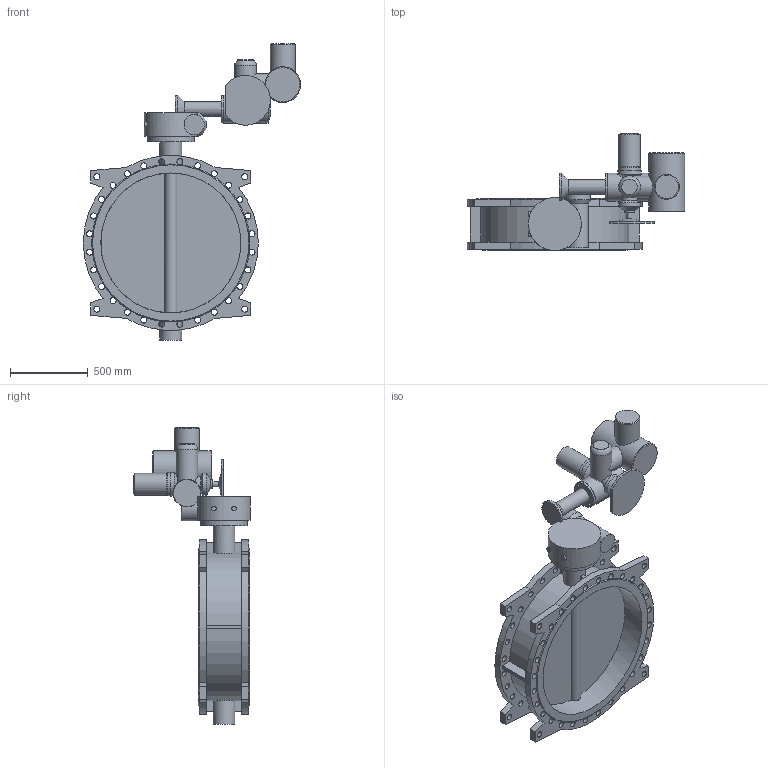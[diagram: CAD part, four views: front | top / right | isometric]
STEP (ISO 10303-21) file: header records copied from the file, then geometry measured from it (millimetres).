
FILE_DESCRIPTION(('STEP AP203'), '1');
FILE_NAME('Çàòâîð 021F.Y DN900 +ðåäóêòîð+ÌÒ903.À30-34 ñ ÁÓ', '', ('UNSPECIFIED'), ('UNSPECIFIED'), 'ASCON STEP Converter 1.6', 'ASCON Math Kernel', '');
FILE_SCHEMA(('CONFIG_CONTROL_DESIGN'));
Length unit declared in the file: millimetre
Bounding box: 1397.5 x 752 x 1903 mm (x, y, z)
Volume: 135686105 mm3; surface area: 6901358.3 mm2
Topology: 1 solids, 1 shells, 246 faces, 763 edges, 503 vertices
Faces by surface type: cylinder 131, plane 99, cone 15, torus 1
Full cylindrical faces by diameter (mm): 14 x12, 18 x12, 30 x2, 32 x1, 39 x64, 60 x1, 95 x1, 100 x1, 130 x1, 140 x6, 147 x1, 151 x1, 160 x2, 175 x1, 180 x1, 230 x1, 300 x1, 340 x1, 900 x2
Entity records: 16997 total; most frequent: CARTESIAN_POINT 8443, DIRECTION 1308, ORIENTED_EDGE 1272, EDGE_CURVE 636, AXIS2_PLACEMENT_3D 577, VERTEX_POINT 503, EDGE_LOOP 487, CIRCLE 330
